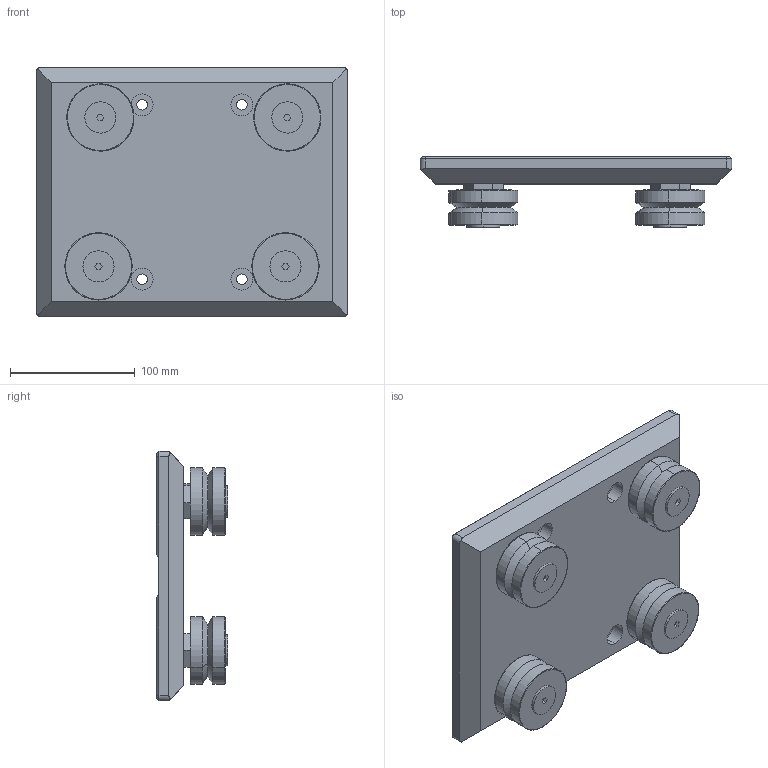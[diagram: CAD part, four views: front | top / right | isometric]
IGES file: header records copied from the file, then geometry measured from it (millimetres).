
Start section: 3D InterOp IGES (Version 21 0 1), Spatial Corp. Copyright (c) 1999-2007.
Global section: file name: RG-250(GS-76C).igs; native system: Spatial Corp.; preprocessor: 3D InterOp GENERIC/IGES 3.0; author: Noname; organization: Noname; date: 20220328.113720; units: millimetre
Bounding box: 250 x 57 x 200 mm (x, y, z)
Surface area: 181387.6 mm2 (no closed solid volume)
Topology: 0 solids, 0 shells, 350 faces, 1564 edges, 1556 vertices
Faces by surface type: revolution 200, extrusion 150
